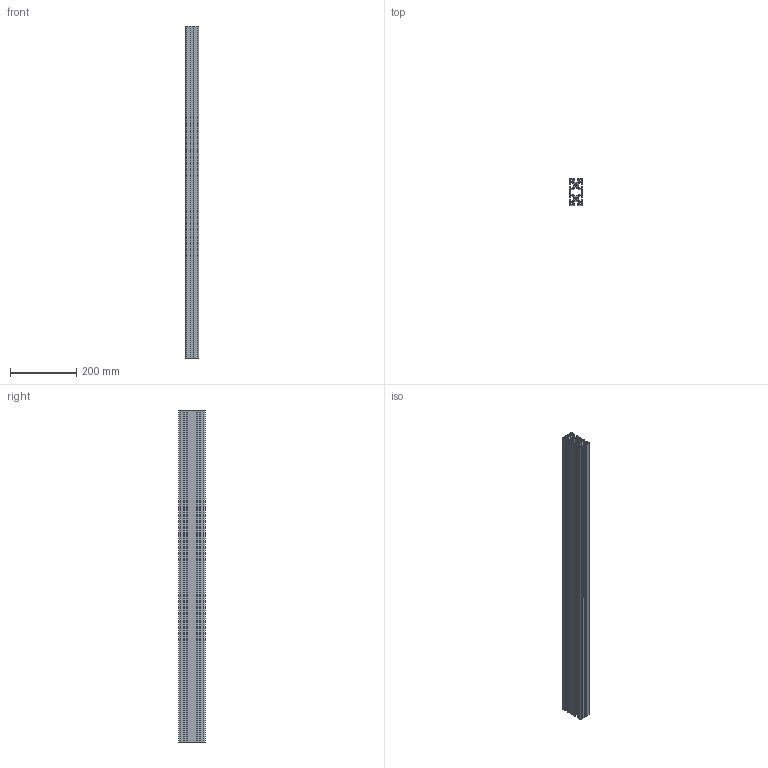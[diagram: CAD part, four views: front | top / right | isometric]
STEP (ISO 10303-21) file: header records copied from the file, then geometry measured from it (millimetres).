
FILE_DESCRIPTION(/* description */ (' Construction X Profile - Length: 1000.000 mm'),/* implementation_level */ '2;1');
FILE_NAME(/* name */ 'Heavy-Duty Profile 40x80.STEP',/* time_stamp */ '2026-02-10T15:03:15-05:00',/* author */ ('Design2'),/* organization */ ('CCS Design LLC'),/* preprocessor_version */ 'ST-DEVELOPER v20',/* originating_system */ 'Autodesk Inventor 2025',/* authorisation */ '');
FILE_SCHEMA (('AUTOMOTIVE_DESIGN { 1 0 10303 214 3 1 1 }'));
Length unit declared in the file: inch
Products named in the file (1): CXP-80-40-1000
Bounding box: 40 x 80 x 1000 mm (x, y, z)
Volume: 1156389.3 mm3; surface area: 762412.3 mm2
Topology: 1 solids, 1 shells, 224 faces, 666 edges, 444 vertices
Faces by surface type: cylinder 118, plane 106
Full cylindrical faces by diameter (mm): 6.8 x2
Entity records: 7659 total; most frequent: DIRECTION 1352, CARTESIAN_POINT 1335, ORIENTED_EDGE 1332, EDGE_CURVE 666, AXIS2_PLACEMENT_3D 461, VERTEX_POINT 444, LINE 430, VECTOR 430
